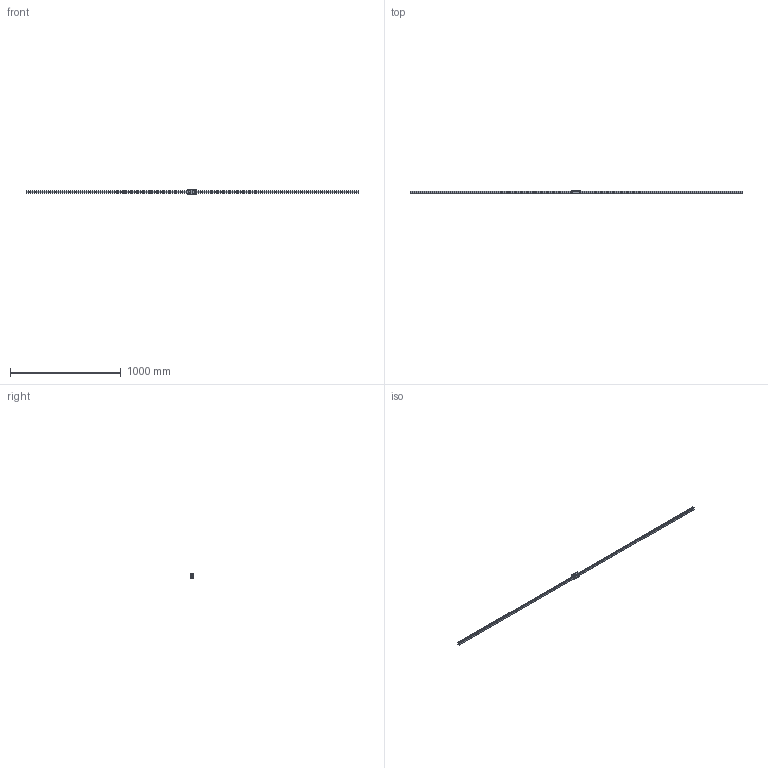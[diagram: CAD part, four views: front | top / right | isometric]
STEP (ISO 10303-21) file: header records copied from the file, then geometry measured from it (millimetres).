
FILE_DESCRIPTION(/* description */ ('STEP AP214'),/* implementation_level */ '2;1');
FILE_NAME(/* name */ 'HDR20R1SS-3000L_G30_0_PB107_1462-55_0_0_01',/* time_stamp */ '2023-06-30T12:28:41+02:00',/* author */ ('License CC BY-ND 4.0'),/* organization */ ('CADENAS'),/* preprocessor_version */ 'ST-DEVELOPER v19.3',/* originating_system */ 'PARTsolutions',/* authorisation */ ' ');
FILE_SCHEMA (('AUTOMOTIVE_DESIGN {1 0 10303 214 3 1 1}'));
Length unit declared in the file: millimetre
Products named in the file (4): HDR20R1SS-3000L_G30_0_PB107_1462-55_0_0_01; hsr_ftht_PB107_grease_nipple_joint; HDR20RSSPB1071 Slider; HDR20R1300030 Rail
Assembly tree (3 placements, depth 2):
  HDR20R1SS-3000L_G30_0_PB107_1462-55_0_0_01
    hsr_ftht_PB107_grease_nipple_joint
    HDR20RSSPB1071 Slider
    HDR20R1300030 Rail
Bounding box: 3000 x 30 x 44 mm (x, y, z)
Volume: 1023973 mm3; surface area: 294367.3 mm2
Topology: 3 solids, 3 shells, 343 faces, 820 edges, 540 vertices
Faces by surface type: cylinder 169, plane 161, cone 12, sphere 1
Full cylindrical faces by diameter (mm): 2.9 x4, 3 x1, 3.5 x3, 4.134 x6, 4.5 x1, 6 x50, 9.5 x50
Entity records: 9651 total; most frequent: DIRECTION 1722, CARTESIAN_POINT 1569, ORIENTED_EDGE 1368, AXIS2_PLACEMENT_3D 691, EDGE_CURVE 684, FACE_BOUND 634, EDGE_LOOP 628, VERTEX_POINT 538
